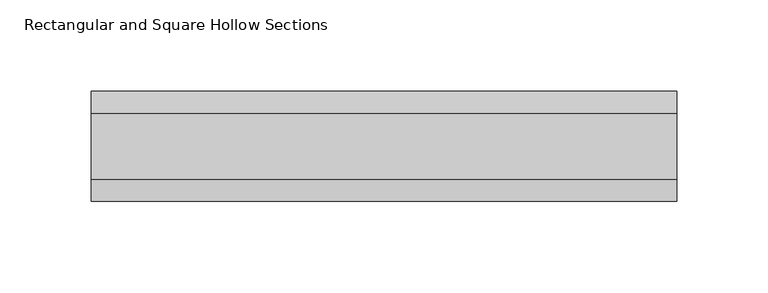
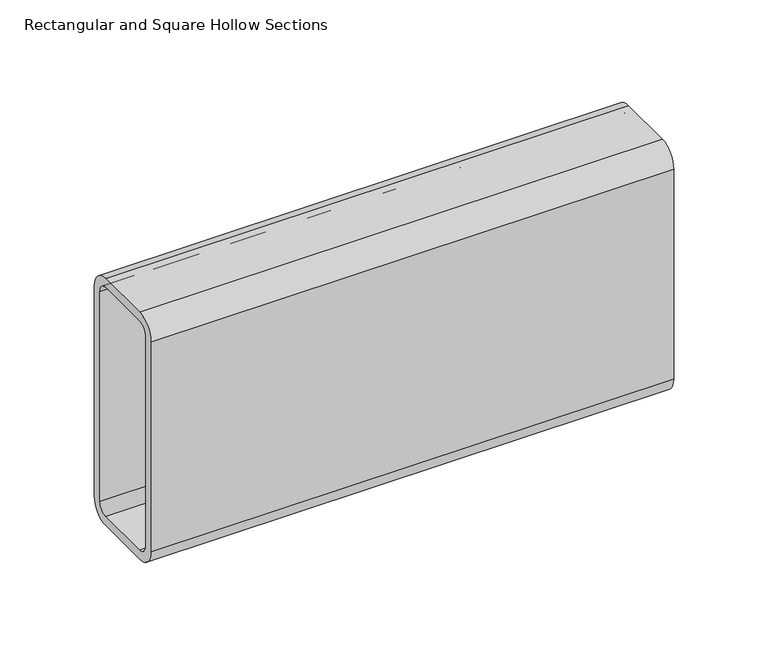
"""IFC4 building model written with IfcOpenShell, lengths in millimetres: beam geometry, Rectangular and Square Hollow Sections : TREC160x60x6."""

from ifc_helpers import new_model, si_unit, point, frame, frame_2d, origin, place, context, project, spatial, polyline, circle_curve, trimmed, segment, composite_curve, outline, extrude, source, transform, mapped, element, save


def rectangular_and_square_hollow_sections_cb22ee98(model_context):
    return source(origin(), model_context, "Body", "SweptSolid", [
        extrude(outline(composite_curve([segment(polyline([(30.0, 68.0), (30.0, -68.0)]), True, "CONTINUOUS"), segment(trimmed(circle_curve(frame_2d((18.0, -68.0)), 12.0), [point((30.0, -68.0))], [point((18.0, -80.0))], False, "CARTESIAN"), True, "CONTINUOUS"), segment(polyline([(18.0, -80.0), (-18.0, -80.0)]), True, "CONTINUOUS"), segment(trimmed(circle_curve(frame_2d((-18.0, -68.0)), 12.0), [point((-18.0, -80.0))], [point((-30.0, -68.0))], False, "CARTESIAN"), True, "CONTINUOUS"), segment(polyline([(-30.0, -68.0), (-30.0, 68.0)]), True, "CONTINUOUS"), segment(trimmed(circle_curve(frame_2d((-18.0, 68.0)), 12.0), [point((-30.0, 68.0))], [point((-18.0, 80.0))], False, "CARTESIAN"), True, "CONTINUOUS"), segment(polyline([(-18.0, 80.0), (18.0, 80.0)]), True, "CONTINUOUS"), segment(trimmed(circle_curve(frame_2d((18.0, 68.0)), 12.0), [point((18.0, 80.0))], [point((30.0, 68.0))], False, "CARTESIAN"), True, "CONTINUOUS")], self_intersect=False), holes=[composite_curve([segment(trimmed(circle_curve(frame_2d((-18.0, 68.0)), 6.0), [point((-18.0, 74.0))], [point((-24.0, 68.0))], True, "CARTESIAN"), True, "CONTINUOUS"), segment(polyline([(-24.0, 68.0), (-24.0, -68.0)]), True, "CONTINUOUS"), segment(trimmed(circle_curve(frame_2d((-18.0, -68.0)), 6.0), [point((-24.0, -68.0))], [point((-18.0, -74.0))], True, "CARTESIAN"), True, "CONTINUOUS"), segment(polyline([(-18.0, -74.0), (18.0, -74.0)]), True, "CONTINUOUS"), segment(trimmed(circle_curve(frame_2d((18.0, -68.0)), 6.0), [point((18.0, -74.0))], [point((24.0, -68.0))], True, "CARTESIAN"), True, "CONTINUOUS"), segment(polyline([(24.0, -68.0), (24.0, 68.0)]), True, "CONTINUOUS"), segment(trimmed(circle_curve(frame_2d((18.0, 68.0)), 6.0), [point((24.0, 68.0))], [point((18.0, 74.0))], True, "CARTESIAN"), True, "CONTINUOUS"), segment(polyline([(18.0, 74.0), (-18.0, 74.0)]), True, "CONTINUOUS")], self_intersect=False)]), frame((-160.0, 0.0, 0.0), z_axis=(1.0, 0.0, 0.0), x_axis=(0.0, 1.0, 0.0)), (0.0, 0.0, 1.0), 320.0),
    ])


if __name__ == "__main__":
    model = new_model("IFC4")
    model_context = context("Model", 3, world=origin())
    ifc_project = project(units=[si_unit("LENGTHUNIT", "METRE", prefix="MILLI")], contexts=[model_context])
    site = spatial("IfcSite", under=ifc_project)
    building = spatial("IfcBuilding", under=site)
    placement = place(None, origin())
    rectangular_and_square_hollow_sections_shape = rectangular_and_square_hollow_sections_cb22ee98(model_context)
    element("IfcBeam", 1, ObjectType="Rectangular and Square Hollow Sections : TREC160x60x6", at=placement, inside=building, context=model_context, shape_type="MappedRepresentation", body=[
        mapped(rectangular_and_square_hollow_sections_shape, transform((0.0, 0.0, 0.0), x_axis=(1.0, 0.0, 0.0), y_axis=(0.0, 1.0, 0.0), z_axis=(0.0, 0.0, 1.0))),
    ])
    save(model, "model.ifc")
